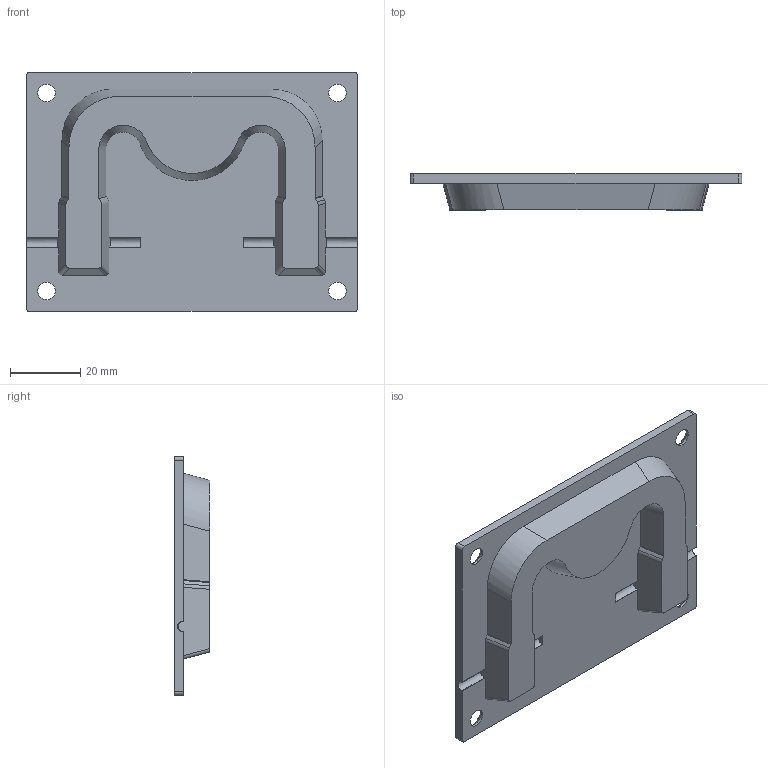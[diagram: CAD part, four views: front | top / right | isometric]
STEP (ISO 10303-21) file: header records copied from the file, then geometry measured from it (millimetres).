
FILE_DESCRIPTION (( 'STEP AP203' ), '1' );
FILE_NAME ('XG01-082-2.STEP', '2026-05-30T08:50:28', ( '微软用户' ), ( '微软中国' ), 'SwSTEP 2.0', 'SolidWorks 2024', '' );
FILE_SCHEMA (( 'CONFIG_CONTROL_DESIGN' ));
Length unit declared in the file: millimetre
Products named in the file (1): XG01-082-2
Bounding box: 94.6 x 10.2 x 68.2 mm (x, y, z)
Volume: 26998.2 mm3; surface area: 20123.2 mm2
Topology: 1 solids, 1 shells, 112 faces, 379 edges, 264 vertices
Faces by surface type: plane 51, cylinder 46, cone 8, bspline 7
Entity records: 4729 total; most frequent: CARTESIAN_POINT 1455, ORIENTED_EDGE 758, DIRECTION 585, EDGE_CURVE 379, VERTEX_POINT 264, LINE 235, VECTOR 235, AXIS2_PLACEMENT_3D 175
